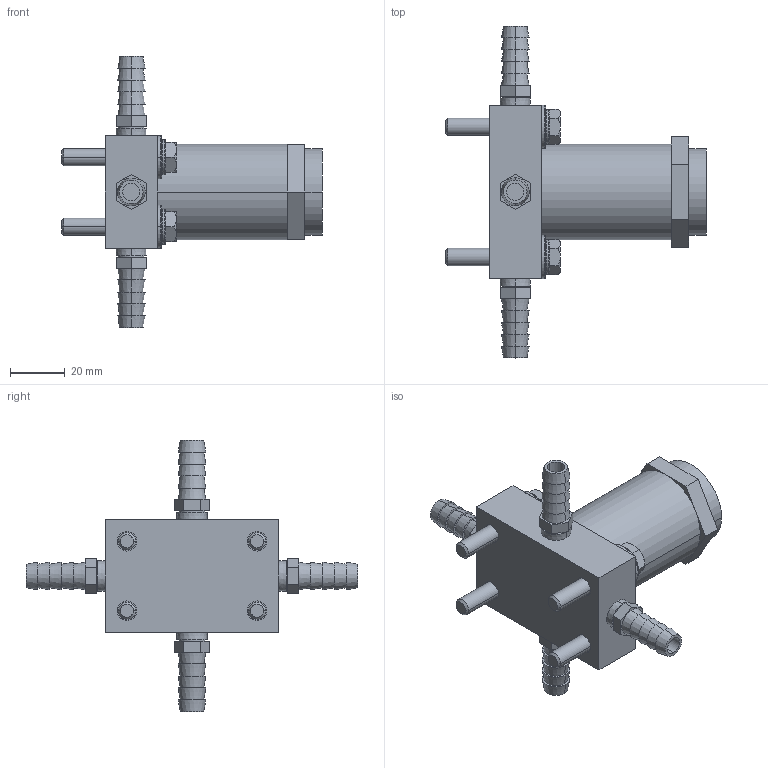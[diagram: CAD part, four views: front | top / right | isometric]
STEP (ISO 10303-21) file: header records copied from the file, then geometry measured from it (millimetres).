
FILE_DESCRIPTION((''),'2;1');
FILE_NAME('ULR3_ASM','2017-08-24T',('jennifer.elliott'),('CenterLine (Windsor) Ltd - Automation Components Division'),'PRO/ENGINEER BY PARAMETRIC TECHNOLOGY CORPORATION, 2015030','PRO/ENGINEER BY PARAMETRIC TECHNOLOGY CORPORATION, 2015030','');
FILE_SCHEMA(('AUTOMOTIVE_DESIGN { 1 0 10303 214 1 1 1 1 }'));
Length unit declared in the file: inch
Products named in the file (18): PRT0669; PRT0670; PRT0671; PRT0672; PRT0673; PRT0674; PRT0675; PRT0676; PRT0677; PRT0678; PRT0679; ASM0008_ASM; PRT0680; PRT0681; PRT0682; PRT0683; TMP_DWG-3DSOLID_96; ULR3_ASM
Assembly tree (17 placements, depth 3):
  ULR3_ASM
    PRT0669
    PRT0670
    PRT0671
    PRT0672
    PRT0673
    PRT0674
    PRT0675
    ASM0008_ASM
      PRT0676
      PRT0677
      PRT0678
      PRT0679
    PRT0680
    PRT0681
    PRT0682
    PRT0683
    TMP_DWG-3DSOLID_96
Bounding box: 95.25 x 121.41 x 99.19 mm (x, y, z)
Volume: 117474.2 mm3; surface area: 36490.6 mm2
Topology: 16 solids, 16 shells, 294 faces, 670 edges, 440 vertices
Faces by surface type: plane 134, cone 80, cylinder 56, torus 24
Entity records: 9834 total; most frequent: CARTESIAN_POINT 1944, DIRECTION 1556, ORIENTED_EDGE 1340, EDGE_CURVE 670, AXIS2_PLACEMENT_3D 641, VERTEX_POINT 440, EDGE_LOOP 350, CIRCLE 308
